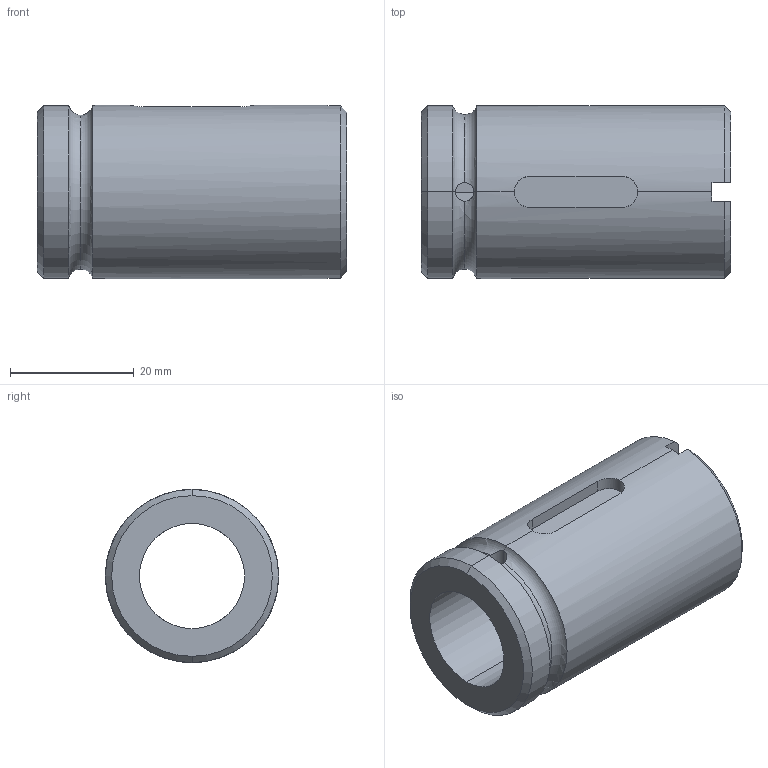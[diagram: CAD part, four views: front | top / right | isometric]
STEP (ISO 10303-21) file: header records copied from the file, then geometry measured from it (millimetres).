
FILE_DESCRIPTION (( 'STEP AP214' ), '1' );
FILE_NAME ('KGM-D 1610.STEP', '2021-01-18T08:41:35', ( 'user' ), ( 'datathink' ), 'SwSTEP 2.0', 'SolidWorks 2013', '' );
FILE_SCHEMA (( 'AUTOMOTIVE_DESIGN' ));
Length unit declared in the file: millimetre
Products named in the file (1): KGM-D 1610
Bounding box: 50 x 28 x 28 mm (x, y, z)
Volume: 18663.8 mm3; surface area: 7981.1 mm2
Topology: 1 solids, 1 shells, 31 faces, 84 edges, 52 vertices
Faces by surface type: plane 12, cylinder 11, torus 4, cone 4
Entity records: 1163 total; most frequent: CARTESIAN_POINT 342, ORIENTED_EDGE 168, DIRECTION 167, EDGE_CURVE 84, AXIS2_PLACEMENT_3D 65, VERTEX_POINT 52, VECTOR 37, LINE 37
